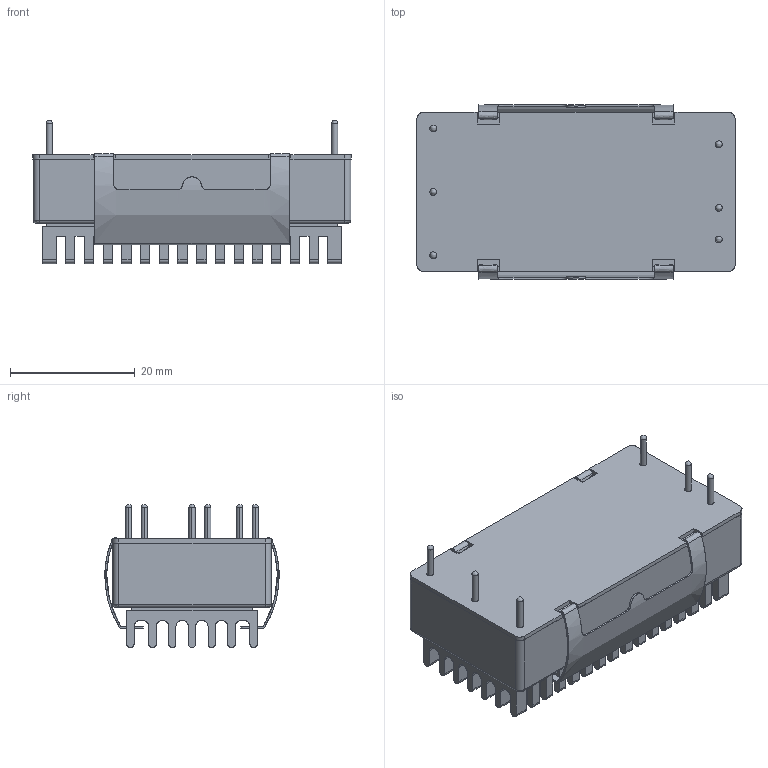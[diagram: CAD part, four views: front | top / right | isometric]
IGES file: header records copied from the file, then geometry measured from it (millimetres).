
Start section: SolidWorks IGES file using analytic representation for surfaces
Global section: file name: C:\Users\ksmith.XPNA\Desktop\JWL50\JWL50-HK.IGS; native system: SolidWorks 2017; preprocessor: SolidWorks 2017; author: ksmith; date: 170720.084428; units: inch
Bounding box: 50.95 x 27.92 x 22.95 mm (x, y, z)
Surface area: 12936.5 mm2 (no closed solid volume)
Topology: 0 solids, 0 shells, 970 faces, 10336 edges, 10320 vertices
Faces by surface type: bspline 544, revolution 426
